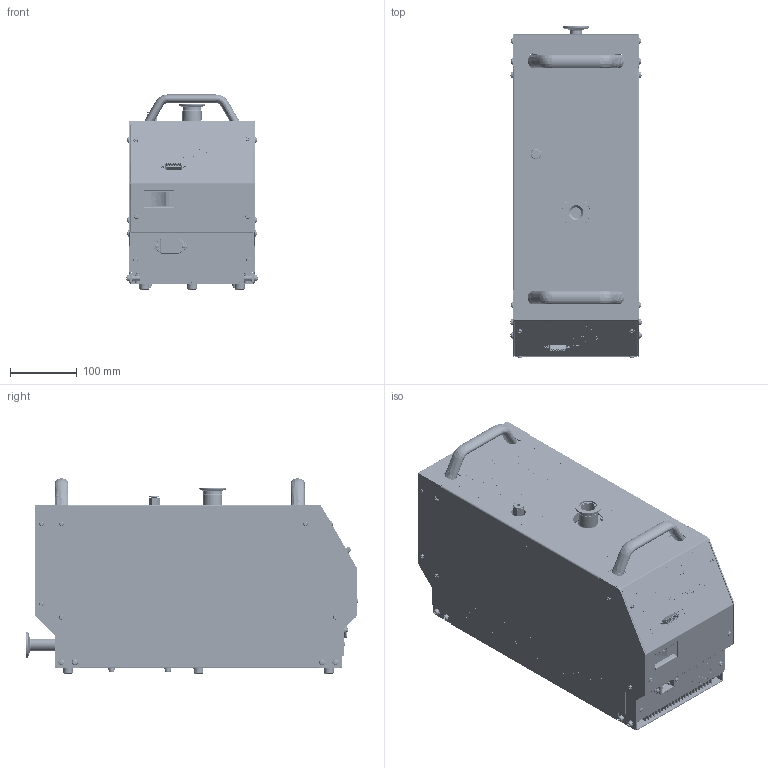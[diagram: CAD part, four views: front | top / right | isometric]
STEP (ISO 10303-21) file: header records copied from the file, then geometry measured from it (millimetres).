
FILE_DESCRIPTION(/* description */ ('Unknown'),/* implementation_level */ '2;1');
FILE_NAME(/* name */ 'S:\2D\DATA\4GDWGデータ\MOVE\酒井\DSP\DSP251 W8-A191121401-02(3D)-固定金具削除.stp',/* time_stamp */ '2021-08-19T09:09:40+09:00',/* author */ ('OVSACAD18'),/* organization */ ('Unknown'),/* preprocessor_version */ 'ST-DEVELOPER v16.5',/* originating_system */ 'Autodesk Inventor 2017',/* authorisation */ '');
FILE_SCHEMA (('AUTOMOTIVE_DESIGN { 1 0 10303 214 3 1 1 }'));
Products named in the file (64): DSP251 W8-A191121401-02(3D); W1-C161901701-00; W1-C161901701-00_1; W1-C161901701-00_2; W1-C190605701-00; W1-C161896001-02; W1-C161896001-02_1; W1-C161896001-02_2; W1-C161896001-02_3; W1-C190605501-03; W1-C190605501-03_1; W1-C190605501-03_2; W1-C190605501-03_3; W1-C190605501-03_4; W1-C190605501-03_5; W1-C161901602-01; PDVC-S-CP_C-5150-004-1700; 冷却ファン109L1424; Part36; Part38; W1-C122055501-00; W1-C102294501-01; W1-C091139801-01; W1-C082268501-00; W1-C082268401-00; W1-C090219701-00; C-30-FRB-15; PDVC-S-INLET_C-5550-015-5300; 充電ﾏｰｸ-h2; コント2; ハン1; W1-C184864901-00; W1-C190175502-00; W1-C140004101-00; W1-C140410201-00; W1-C184864801-00; sfbs-m4×8-sus; W1-C100016401-00; W1-9414072; W1-9414071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
Assembly tree (143 placements, depth 3):
  DSP251 W8-A191121401-02(3D)
    C-30-FRB-15  x5
    W1-C161901701-00
      W1-C161901701-00_1
      W1-C161901701-00_2
    W1-C190605701-00
    W1-C161896001-02
      W1-C161896001-02_1
      W1-C161896001-02_3  x12
      W1-C161896001-02_2
    W1-C190605501-03
      W1-C190605501-03_1
      W1-C190605501-03_2  x2
      W1-C190605501-03_3  x2
      W1-C190605501-03_4
      W1-C190605501-03_5
    sfbs-m4×8-sus  x20
    W1-C161901602-01
    PDVC-S-CP_C-5150-004-1700
    bsh-m04x14  x4
    la_setB-m03x12-ss  x2
    冷却ファン109L1424
      Part36
      Part38
    W1-C184529001-00  x2
    W1-C122055501-00
    W1-C102294501-01
    W1-C091139801-01
    W1-C082268501-00
    W1-C082268401-00
    la-setB-m05x12-sus304  x12
    W1-C090219701-00
    PDVC-S-INLET_C-5550-015-5300
    充電ﾏｰｸ-h2
    コント2
    ハン1  x2
    W1-C184864901-00
    W1-C190175502-00
    W1-C140004101-00
    W1-C140410201-00
    W1-C184864801-00
    la_setB-m04x12-sus304  x4
    W1-C100016401-00
    低頭六角穴付ﾎﾞﾙﾄ  x4
    W1-9414072
    W1-9414071
    W1-C184417401-01
    W1-C122055601-01
    la_setB-m03x6-sus304  x5
    ﾌｨﾝｶﾞｰｶﾞｰﾄﾞ1
09-719H
    zr-m05  x4
    n-m04  x4
    la-m02_5x06  x5
    la_setB-m04x16-sus304  x4
    zm-m05  x4
    W1-C090082901-01  x2
    W1-C191411501-00
      W1-C191411501-00_01
      W1-C191411501-00_02
    la_setB-m04x6-c3602
Bounding box: 196.28 x 496.7 x 291.99 mm (x, y, z)
Volume: 4345499.5 mm3; surface area: 2532567.4 mm2
Topology: 147 solids, 147 shells, 9875 faces, 25177 edges, 16762 vertices
Faces by surface type: plane 7462, cylinder 1311, bspline 871, cone 120, torus 78, sphere 33
Full cylindrical faces by diameter (mm): 1.02 x3, 1.5 x15, 1.6 x24, 2.013 x10, 2.2 x7, 2.459 x24, 3 x18, 3.15 x1, 3.2 x3, 3.242 x33, 3.5 x8, 4 x36, 4.1 x12, 4.134 x16, 4.3 x8, 4.5 x12, 4.8 x4, 5 x48, 5.2 x2, 5.3 x4, 5.5 x11, 5.8 x1, 6 x19, 6.2 x5, 6.35 x1, 6.5 x12, 6.928 x1, 7 x36, 7.1 x12, 7.2 x4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
Entity records: 278284 total; most frequent: CARTESIAN_POINT 77387, ORIENTED_EDGE 40408, DIRECTION 35551, EDGE_CURVE 20204, LINE 16683, VECTOR 16683, VERTEX_POINT 13655, EDGE_LOOP 9681
